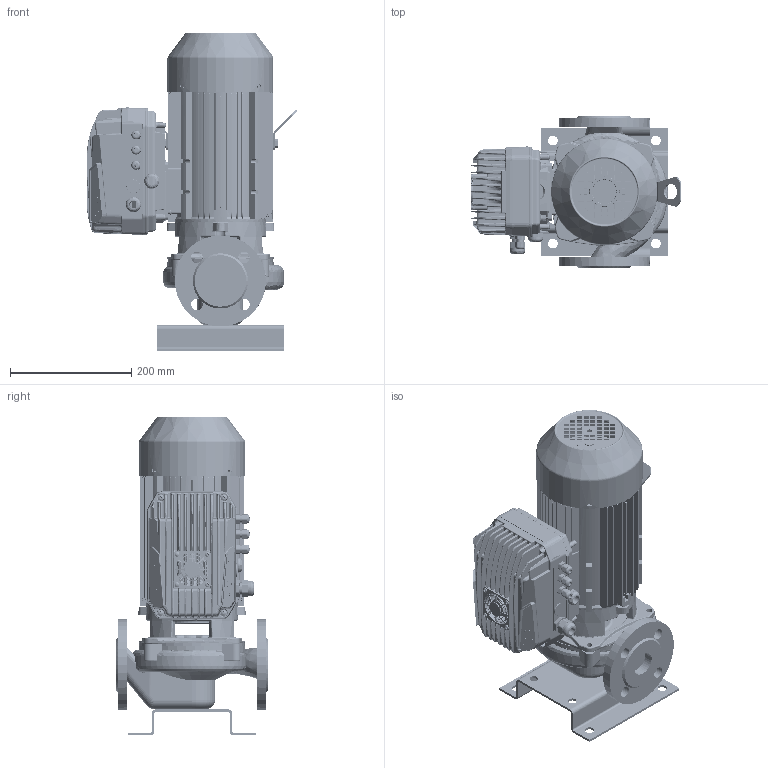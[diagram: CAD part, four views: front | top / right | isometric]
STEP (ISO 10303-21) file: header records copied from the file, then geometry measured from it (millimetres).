
FILE_DESCRIPTION(('STEP AP214'),'1');
FILE_NAME('export.stp','2022-09-07T06:26:26',(' '),(' '),'Spatial InterOp 3D',' ',' ');
FILE_SCHEMA(('AUTOMOTIVE_DESIGN { 1 0 10303 214 1 1 1 1 }'));
Length unit declared in the file: millimetre
Products named in the file (49): W_L40A2_XX_KP90; V_PPL40A; V_JALKA35973; V_TLAEAP3233L40A; 160035; 160008; V_MKP90-1_N13; 160141; 160137; 160138; 160139; 160140; Koura_Ale_M5; Plug_Blind_M20; Sealing_Plug_M20; DIN_7985-M5X8; DIN_7985-M5X12; 480037; 480036___; 480039; 480038___; 160135; 160134; DIN_EN_24017_-_M8_16-Stainless_S; V_AdapMida205_407; 210588; MIDA_180deg; BASE_MIDA_NASTEC_89; 3005020100_AF0_157; PRT0001; PRT0002; PRT0003; PRT0005; PRT0006; PRT0007; V4-25--_-_U7687_PZ_AF0_5; V4-25--_-_U7687_PZ_AF1_5; V4-25--_-_U7687_PZ_AF2_5; V4-25--_-_U7687_PZ_AF3_5; V5-30--_-_U7687_PZ_AF0_5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
Assembly tree (54 placements, depth 4):
  W_L40A2_XX_KP90
    V_PPL40A
    V_JALKA35973
    V_TLAEAP3233L40A
    V_MKP90-1_N13
      160035
        160008
      160141
        160137
        160138
        160139
        160140
        Koura_Ale_M5
        Plug_Blind_M20
        Sealing_Plug_M20
        DIN_7985-M5X8
        DIN_7985-M5X12  x4
      480037
        480036___
      480039
        480038___
      160135
      160134  x2
      DIN_EN_24017_-_M8_16-Stainless_S  x2
    V_AdapMida205_407
      210588
      DIN_7985-M5X8  x2
    Mida205
      MIDA_180deg
        BASE_MIDA_NASTEC_89
        3005020100_AF0_157
        PRT0001
        PRT0002
        PRT0003
        PRT0005
        PRT0006
        PRT0007
        V4-25--_-_U7687_PZ_AF0_5
        V4-25--_-_U7687_PZ_AF1_5
        V4-25--_-_U7687_PZ_AF2_5
        V4-25--_-_U7687_PZ_AF3_5
        V5-30--_-_U7687_PZ_AF0_5
        V5-30--_-_U7687_PZ_AF1_5
        V5-30--_-_U7687_PZ_AF2_5
        V5-30--_-_U7687_PZ_5
        2001300200_32
        TASTIERA_MIDA_2_44
        ETICHETTA_MIDA_9
        TAPPO_PRESSACAVO_M20_5
Bounding box: 348.12 x 250 x 525.51 mm (x, y, z)
Volume: 4333345.9 mm3; surface area: 1713346.9 mm2
Topology: 45 solids, 46 shells, 6519 faces, 16904 edges, 10464 vertices
Faces by surface type: plane 2319, cylinder 1996, bspline 1426, cone 429, torus 325, sphere 24
Entity records: 326809 total; most frequent: CARTESIAN_POINT 152123, ORIENTED_EDGE 32912, DIRECTION 23892, EDGE_CURVE 16460, VERTEX_POINT 10255, AXIS2_PLACEMENT_3D 8750, EDGE_LOOP 6900, LINE 6392
